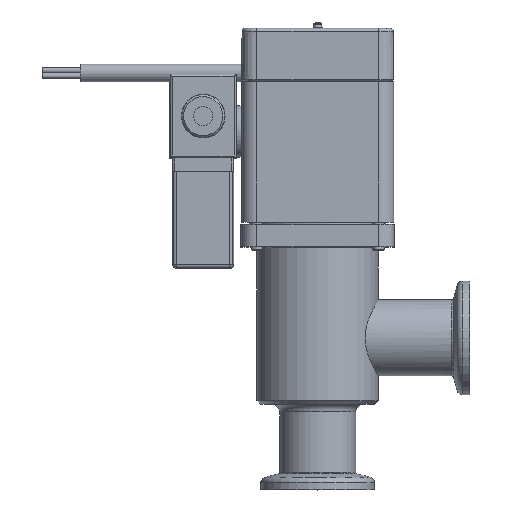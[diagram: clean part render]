
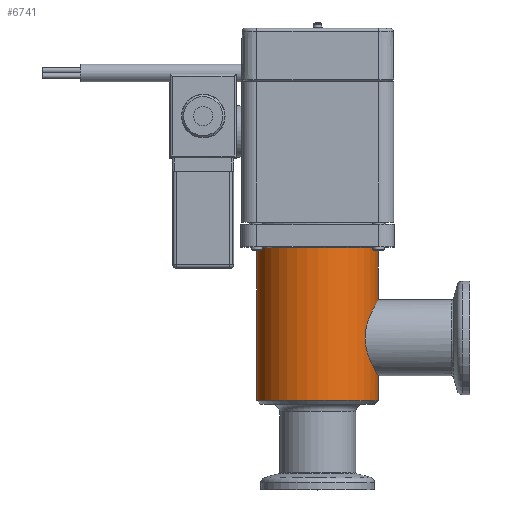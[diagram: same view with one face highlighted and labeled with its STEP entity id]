
A CAD part, top view. The second image highlights one B-rep face of the part: STEP entity #6741.
In plain terms, the highlighted cylindrical face has radius 16 mm (diameter 32 mm), a full revolution.
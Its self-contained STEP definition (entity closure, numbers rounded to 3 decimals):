
#6212=CYLINDRICAL_SURFACE('',#16372,16.);
#6330=B_SPLINE_CURVE_WITH_KNOTS('',3,(#23269,#23270,#23271,#23272,#23273,
#23274,#23275,#23276,#23277,#23278,#23279,#23280,#23281,#23282,#23283,#23284,
#23285,#23286),.UNSPECIFIED.,.T.,.F.,(2,2,2,2,2,2,2,2,2,2,2),(-0.125,0.,
0.125,0.25,0.375,0.5,0.625,0.75,0.875,1.,1.125),.UNSPECIFIED.);
#6741=ADVANCED_FACE('',(#7890,#7891,#7892),#6212,.T.);
#7890=FACE_BOUND('',#8681,.T.);
#7891=FACE_BOUND('',#8682,.T.);
#7892=FACE_BOUND('',#8683,.T.);
#8681=EDGE_LOOP('',(#10652));
#8682=EDGE_LOOP('',(#10653));
#8683=EDGE_LOOP('',(#10654));
#10652=ORIENTED_EDGE('',*,*,#14322,.T.);
#10653=ORIENTED_EDGE('',*,*,#14323,.T.);
#10654=ORIENTED_EDGE('',*,*,#14324,.T.);
#12966=VERTEX_POINT('',#23266);
#12967=VERTEX_POINT('',#23268);
#12968=VERTEX_POINT('',#23287);
#14322=EDGE_CURVE('',#12966,#12966,#15474,.T.);
#14323=EDGE_CURVE('',#12967,#12967,#15475,.T.);
#14324=EDGE_CURVE('',#12968,#12968,#6330,.T.);
#15474=CIRCLE('',#16370,16.);
#15475=CIRCLE('',#16371,16.);
#16370=AXIS2_PLACEMENT_3D('',#23265,#18684,#18685);
#16371=AXIS2_PLACEMENT_3D('',#23267,#18686,#18687);
#16372=AXIS2_PLACEMENT_3D('',#23288,#18688,#18689);
#18684=DIRECTION('',(1.,0.,0.));
#18685=DIRECTION('',(0.,0.,-1.));
#18686=DIRECTION('',(-1.,0.,0.));
#18687=DIRECTION('',(0.,0.,1.));
#18688=DIRECTION('',(-1.,0.,0.));
#18689=DIRECTION('',(0.,0.,1.));
#23265=CARTESIAN_POINT('',(23.5,0.,0.));
#23266=CARTESIAN_POINT('',(23.5,0.,-16.));
#23267=CARTESIAN_POINT('',(63.7,0.,0.));
#23268=CARTESIAN_POINT('',(63.7,0.,16.));
#23269=CARTESIAN_POINT('',(37.847,13.856,-8.));
#23270=CARTESIAN_POINT('',(42.153,13.856,-8.));
#23271=CARTESIAN_POINT('',(44.2,14.416,-7.111));
#23272=CARTESIAN_POINT('',(47.102,15.512,-4.215));
#23273=CARTESIAN_POINT('',(47.996,15.998,-2.147));
#23274=CARTESIAN_POINT('',(48.004,16.002,2.114));
#23275=CARTESIAN_POINT('',(47.11,15.516,4.203));
#23276=CARTESIAN_POINT('',(44.208,14.419,7.107));
#23277=CARTESIAN_POINT('',(42.142,13.86,7.994));
#23278=CARTESIAN_POINT('',(37.903,13.853,8.006));
#23279=CARTESIAN_POINT('',(35.813,14.412,7.12));
#23280=CARTESIAN_POINT('',(32.897,15.512,4.217));
#23281=CARTESIAN_POINT('',(32.005,15.998,2.138));
#23282=CARTESIAN_POINT('',(31.995,16.002,-2.102));
#23283=CARTESIAN_POINT('',(32.881,15.519,-4.195));
#23284=CARTESIAN_POINT('',(35.806,14.414,-7.12));
#23285=CARTESIAN_POINT('',(37.847,13.856,-8.));
#23286=CARTESIAN_POINT('',(42.153,13.856,-8.));
#23287=CARTESIAN_POINT('',(40.,13.856,-8.));
#23288=CARTESIAN_POINT('',(0.,0.,0.));
